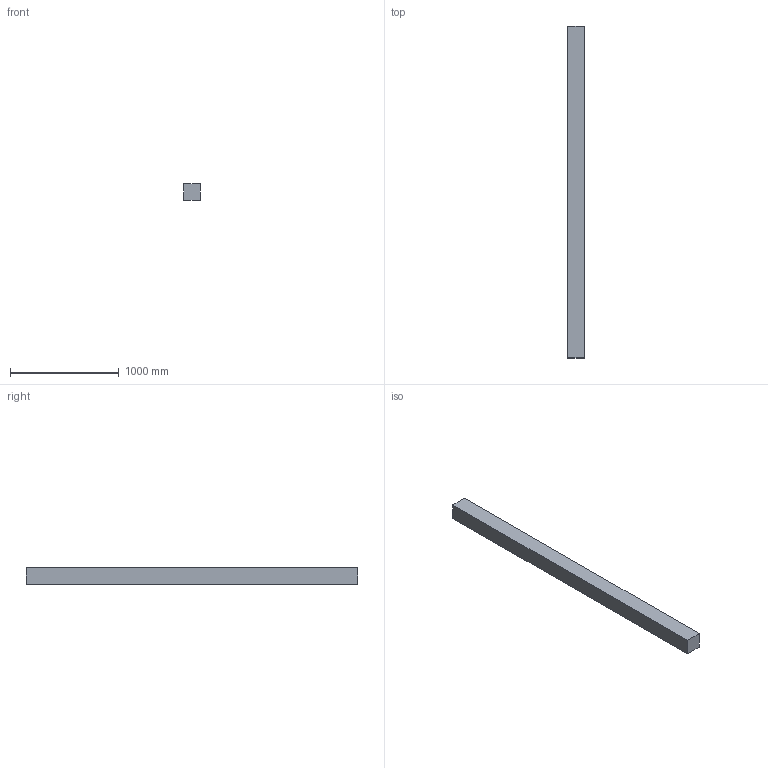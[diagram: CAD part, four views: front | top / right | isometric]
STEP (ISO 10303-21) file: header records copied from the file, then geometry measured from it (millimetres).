
FILE_DESCRIPTION(/* description */ (''),/* implementation_level */ '2;1');
FILE_NAME(/* name */ '6x6x120',/* time_stamp */ '2024-09-20T11:47:28-05:00',/* author */ (''),/* organization */ (''),/* preprocessor_version */ 'ST-DEVELOPER v19.2',/* originating_system */ 'Rhino 8.5',/* authorisation */ '');
FILE_SCHEMA (('CONFIG_CONTROL_DESIGN'));
Length unit declared in the file: inch
Products named in the file (1): Document
Bounding box: 152.4 x 3048 x 152.4 mm (x, y, z)
Volume: 70792116.5 mm3; surface area: 1904512.3 mm2
Topology: 1 solids, 1 shells, 6 faces, 12 edges, 8 vertices
Faces by surface type: plane 6
Entity records: 226 total; most frequent: CARTESIAN_POINT 40, ORIENTED_EDGE 24, EDGE_CURVE 12, B_SPLINE_CURVE_WITH_KNOTS 12, DIRECTION 10, VERTEX_POINT 8, AXIS2_PLACEMENT_3D 8, ORGANIZATION 7
